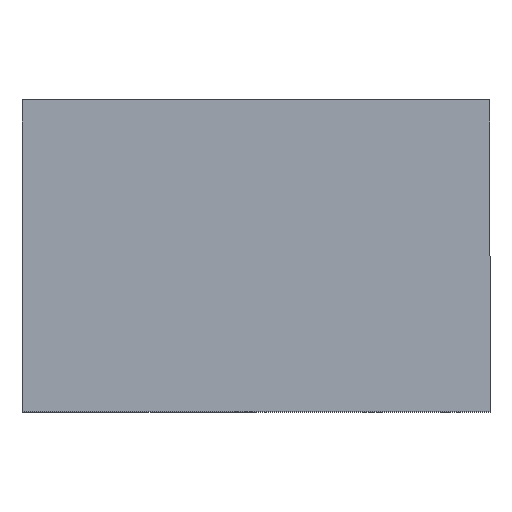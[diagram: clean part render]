
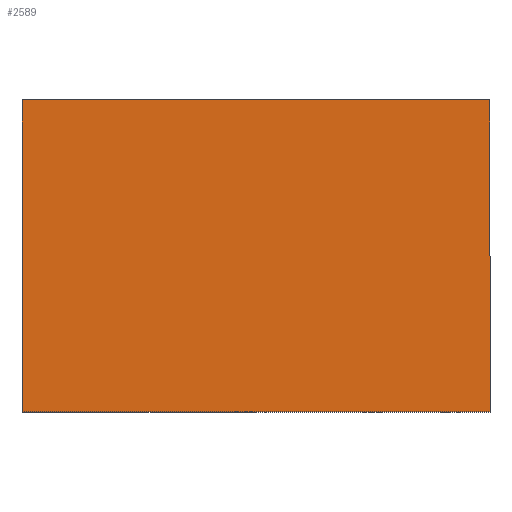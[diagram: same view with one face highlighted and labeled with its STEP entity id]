
A CAD part, top view. The second image highlights one B-rep face of the part: STEP entity #2589.
In plain terms, the highlighted planar face has unit normal (0, 0, 1).
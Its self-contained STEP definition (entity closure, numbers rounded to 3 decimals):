
#2 = LINE ( 'NONE', #2233, #32 ) ;
#12 = LINE ( 'NONE', #2138, #59 ) ;
#32 = VECTOR ( 'NONE', #2231, 1000. ) ;
#59 = VECTOR ( 'NONE', #2143, 1000. ) ;
#186 = EDGE_LOOP ( 'NONE', ( #701, #715, #704, #705 ) ) ;
#343 = FACE_OUTER_BOUND ( 'NONE', #186, .T. ) ;
#546 = VECTOR ( 'NONE', #1743, 1000. ) ;
#554 = LINE ( 'NONE', #1729, #546 ) ;
#631 = VECTOR ( 'NONE', #1986, 1000. ) ;
#655 = LINE ( 'NONE', #1968, #631 ) ;
#701 = ORIENTED_EDGE ( 'NONE', *, *, #2843, .F. ) ;
#704 = ORIENTED_EDGE ( 'NONE', *, *, #2889, .F. ) ;
#705 = ORIENTED_EDGE ( 'NONE', *, *, #2797, .F. ) ;
#715 = ORIENTED_EDGE ( 'NONE', *, *, #2882, .F. ) ;
#865 = VERTEX_POINT ( 'NONE', #3158 ) ;
#869 = VERTEX_POINT ( 'NONE', #3141 ) ;
#870 = VERTEX_POINT ( 'NONE', #3142 ) ;
#886 = VERTEX_POINT ( 'NONE', #3224 ) ;
#1729 = CARTESIAN_POINT ( 'NONE',  ( 30., -20., 10. ) ) ;
#1743 = DIRECTION ( 'NONE',  ( -1., 0., 0. ) ) ;
#1968 = CARTESIAN_POINT ( 'NONE',  ( 30., 20., 10. ) ) ;
#1986 = DIRECTION ( 'NONE',  ( 0., -1., 0. ) ) ;
#2138 = CARTESIAN_POINT ( 'NONE',  ( -30., 20., 10. ) ) ;
#2143 = DIRECTION ( 'NONE',  ( 1., 0., 0. ) ) ;
#2231 = DIRECTION ( 'NONE',  ( 0., 1., 0. ) ) ;
#2233 = CARTESIAN_POINT ( 'NONE',  ( -30., -20., 10. ) ) ;
#2589 = ADVANCED_FACE ( 'NONE', ( #343 ), #3359, .F. ) ;
#2797 = EDGE_CURVE ( 'NONE', #870, #865, #554, .T. ) ;
#2843 = EDGE_CURVE ( 'NONE', #886, #870, #655, .T. ) ;
#2882 = EDGE_CURVE ( 'NONE', #869, #886, #12, .T. ) ;
#2889 = EDGE_CURVE ( 'NONE', #865, #869, #2, .T. ) ;
#2947 = AXIS2_PLACEMENT_3D ( 'NONE', #3329, #3360, #3306 ) ;
#3141 = CARTESIAN_POINT ( 'NONE',  ( -30., 20., 10. ) ) ;
#3142 = CARTESIAN_POINT ( 'NONE',  ( 30., -20., 10. ) ) ;
#3158 = CARTESIAN_POINT ( 'NONE',  ( -30., -20., 10. ) ) ;
#3224 = CARTESIAN_POINT ( 'NONE',  ( 30., 20., 10. ) ) ;
#3306 = DIRECTION ( 'NONE',  ( -1., 0., 0. ) ) ;
#3329 = CARTESIAN_POINT ( 'NONE',  ( 0., 0., 10. ) ) ;
#3359 = PLANE ( 'NONE',  #2947 ) ;
#3360 = DIRECTION ( 'NONE',  ( 0., 0., -1. ) ) ;
